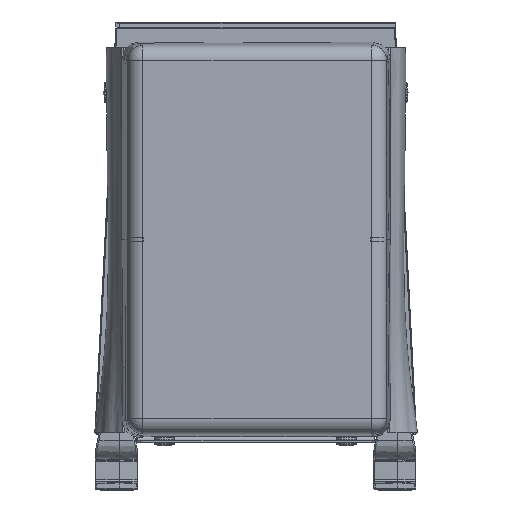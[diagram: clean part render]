
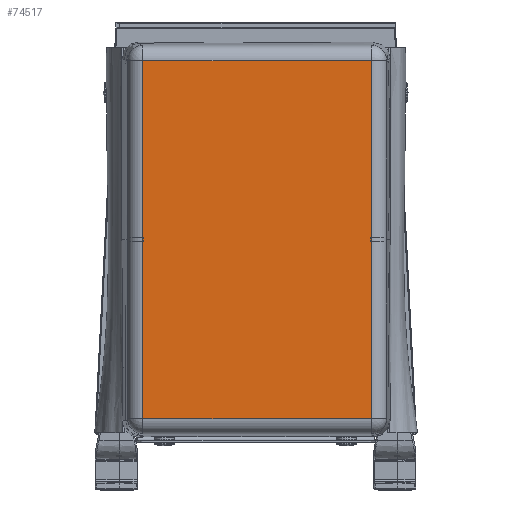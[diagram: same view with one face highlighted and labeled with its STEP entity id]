
A CAD part, front view. The second image highlights one B-rep face of the part: STEP entity #74517.
In plain terms, the highlighted planar face has unit normal (0, -1, 0).
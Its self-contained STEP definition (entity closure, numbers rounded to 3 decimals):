
#14180=DIRECTION('',(0.,0.,1.));
#14181=VECTOR('',#14180,255.852);
#14182=CARTESIAN_POINT('',(82.617,0.,-127.977));
#14183=LINE('',#14182,#14181);
#14259=DIRECTION('',(1.,0.,0.));
#14260=VECTOR('',#14259,163.219);
#14261=CARTESIAN_POINT('',(-80.603,0.,-127.977));
#14262=LINE('',#14261,#14260);
#14263=DIRECTION('',(-1.,0.,0.));
#14264=VECTOR('',#14263,163.219);
#14265=CARTESIAN_POINT('',(82.617,0.,127.875));
#14266=LINE('',#14265,#14264);
#14271=DIRECTION('',(0.,0.,-1.));
#14272=VECTOR('',#14271,255.852);
#14273=CARTESIAN_POINT('',(-80.603,0.,127.875));
#14274=LINE('',#14273,#14272);
#41716=CARTESIAN_POINT('',(-80.603,0.,-127.977));
#41717=CARTESIAN_POINT('',(82.617,0.,-127.977));
#41718=VERTEX_POINT('',#41716);
#41719=VERTEX_POINT('',#41717);
#41724=CARTESIAN_POINT('',(82.617,0.,127.875));
#41725=CARTESIAN_POINT('',(-80.603,0.,127.875));
#41726=VERTEX_POINT('',#41724);
#41727=VERTEX_POINT('',#41725);
#74504=CARTESIAN_POINT('',(0.,0.,0.));
#74505=DIRECTION('',(0.,1.,0.));
#74506=DIRECTION('',(1.,0.,0.));
#74507=AXIS2_PLACEMENT_3D('',#74504,#74505,#74506);
#74508=PLANE('',#74507);
#74509=ORIENTED_EDGE('',*,*,#74495,.F.);
#74511=ORIENTED_EDGE('',*,*,#74510,.F.);
#74513=ORIENTED_EDGE('',*,*,#74512,.F.);
#74514=ORIENTED_EDGE('',*,*,#74426,.F.);
#74515=EDGE_LOOP('',(#74509,#74511,#74513,#74514));
#74516=FACE_OUTER_BOUND('',#74515,.F.);
#74426=EDGE_CURVE('',#41719,#41726,#14183,.T.);
#74495=EDGE_CURVE('',#41718,#41719,#14262,.T.);
#74510=EDGE_CURVE('',#41727,#41718,#14274,.T.);
#74512=EDGE_CURVE('',#41726,#41727,#14266,.T.);
#74517=ADVANCED_FACE('',(#74516),#74508,.F.);
